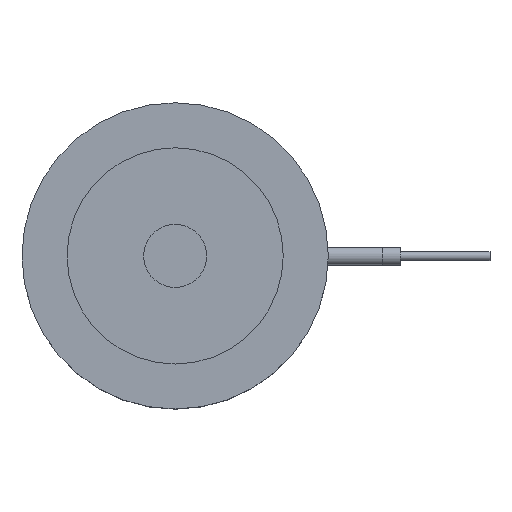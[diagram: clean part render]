
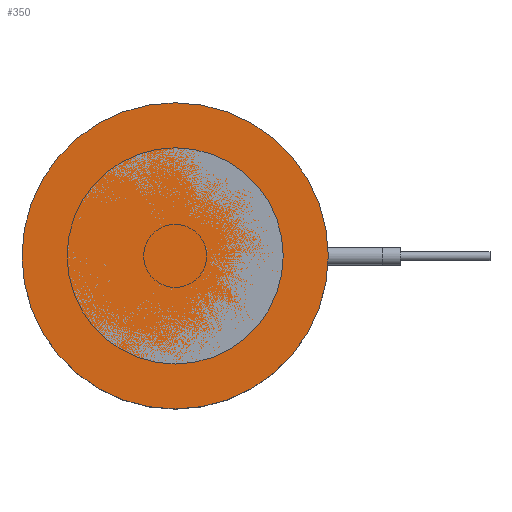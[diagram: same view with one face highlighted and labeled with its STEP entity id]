
A CAD part, top view. The second image highlights one B-rep face of the part: STEP entity #350.
In plain terms, the highlighted planar face has unit normal (0, 0, 1).
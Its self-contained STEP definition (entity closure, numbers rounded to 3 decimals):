
#215=PLANE('',#1190);
#267=FACE_OUTER_BOUND('',#565,.T.);
#350=ADVANCED_FACE('',(#267),#215,.F.);
#565=EDGE_LOOP('',(#777));
#777=ORIENTED_EDGE('',*,*,#976,.F.);
#869=VERTEX_POINT('',#1881);
#976=EDGE_CURVE('',#869,#869,#1046,.T.);
#1046=CIRCLE('',#1189,17.);
#1189=AXIS2_PLACEMENT_3D('',#1880,#1504,#1505);
#1190=AXIS2_PLACEMENT_3D('',#1882,#1506,#1507);
#1504=DIRECTION('',(0.,0.,-1.));
#1505=DIRECTION('',(-1.,0.,0.));
#1506=DIRECTION('',(0.,0.,-1.));
#1507=DIRECTION('',(-1.,0.,0.));
#1880=CARTESIAN_POINT('',(0.,0.,0.));
#1881=CARTESIAN_POINT('',(-17.,0.,0.));
#1882=CARTESIAN_POINT('',(0.,0.,0.));
